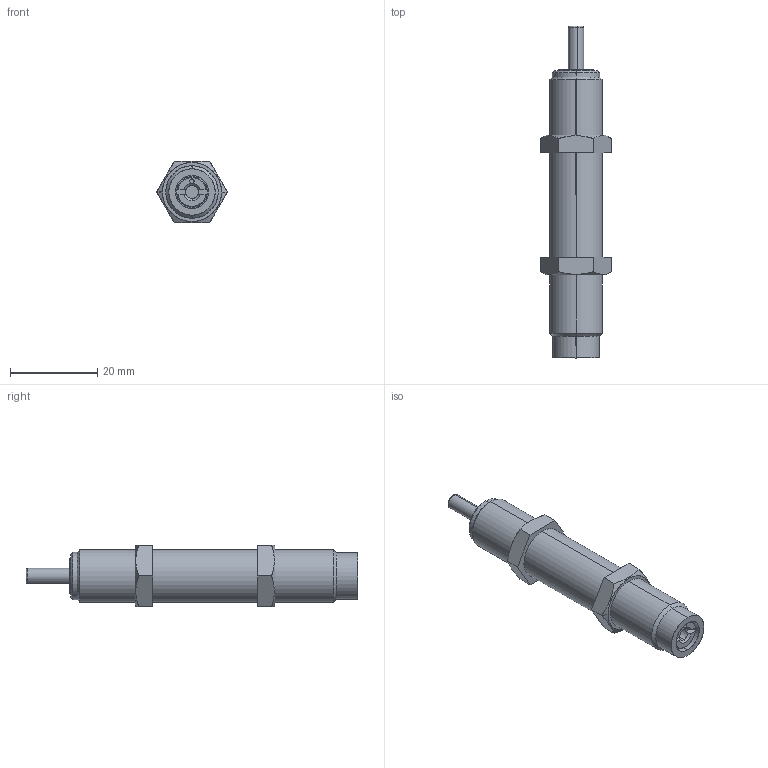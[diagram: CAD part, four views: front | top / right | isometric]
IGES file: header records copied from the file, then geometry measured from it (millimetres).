
Start section: SolidWorks IGES file using analytic representation for surfaces
Bounding box: 16.17 x 76 x 14 mm (x, y, z)
Surface area: 3799.1 mm2 (no closed solid volume)
Topology: 0 solids, 0 shells, 65 faces, 846 edges, 845 vertices
Faces by surface type: revolution 36, bspline 29
